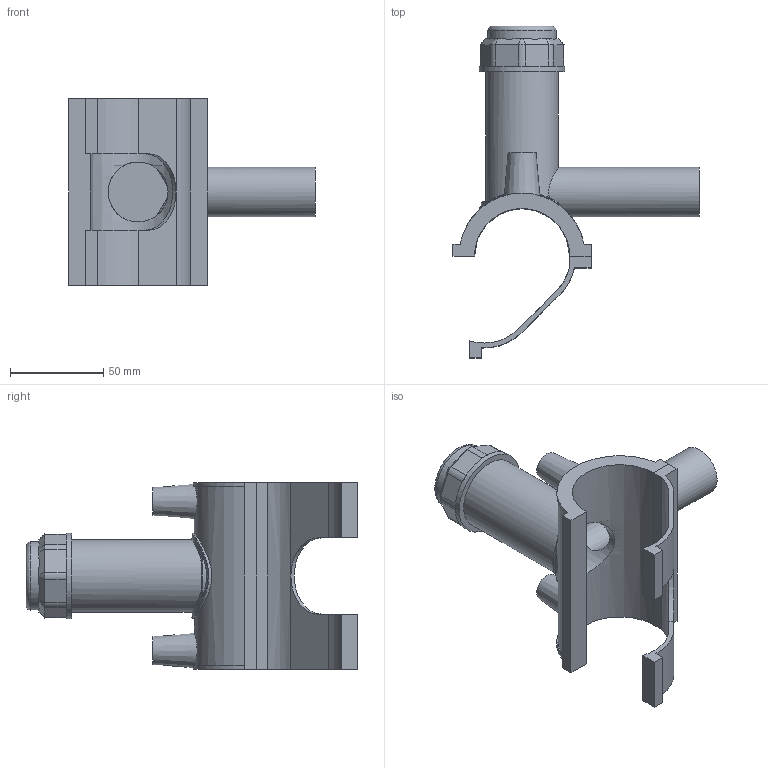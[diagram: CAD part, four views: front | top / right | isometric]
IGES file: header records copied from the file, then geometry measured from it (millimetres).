
Global section: file name: 5963BB03015007.ipt; native system: Autodesk Inventor 2019; preprocessor: unknown; author: KIM; date: 20210830.101336; units: millimetre
Bounding box: 132.08 x 178.11 x 100.08 mm (x, y, z)
Volume: 175139.9 mm3; surface area: 73158.6 mm2
Topology: 2 solids, 2 shells, 111 faces, 286 edges, 187 vertices
Faces by surface type: plane 66, cylinder 23, cone 11, revolution 10, bspline 1
Full cylindrical faces by diameter (mm): 4 x2, 26.6 x1, 36.792 x1, 39.092 x1, 45.99 x1
